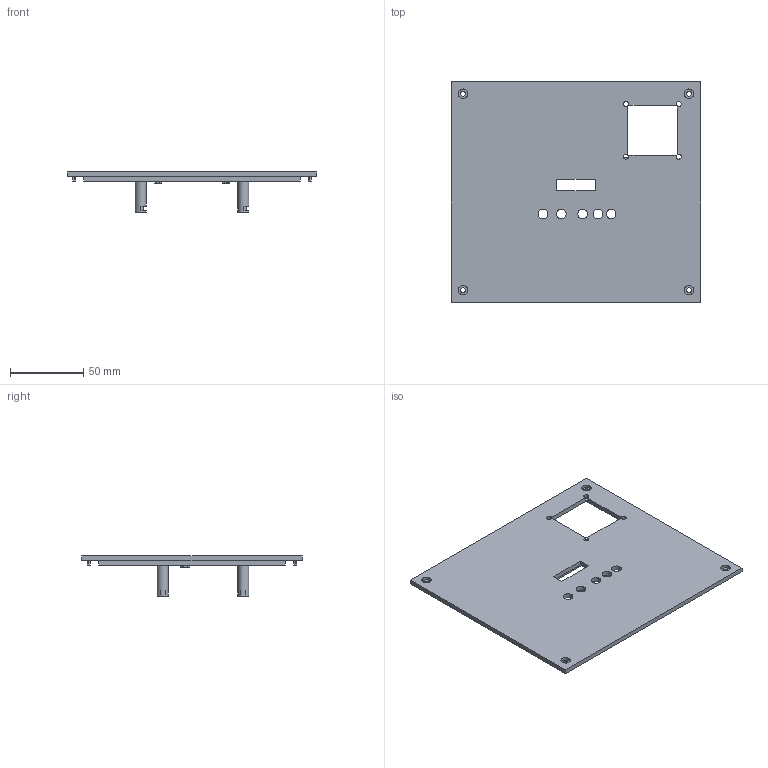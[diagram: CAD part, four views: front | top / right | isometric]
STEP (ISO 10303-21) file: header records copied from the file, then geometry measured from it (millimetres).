
FILE_DESCRIPTION(('Open CASCADE Model'),'2;1');
FILE_NAME('Open CASCADE Shape Model','2026-11-19T15:07:55',('Author'),( 'Open CASCADE'),'Open CASCADE STEP processor 8.0','Open CASCADE 8.0' ,'Unknown');
FILE_SCHEMA(('AUTOMOTIVE_DESIGN { 1 0 10303 214 1 1 1 1 }'));
Length unit declared in the file: millimetre
Products named in the file (1): Open CASCADE STEP translator 8.0 11
Bounding box: 170 x 150 x 27.3 mm (x, y, z)
Volume: 83822.4 mm3; surface area: 58703.9 mm2
Topology: 1 solids, 1 shells, 225 faces, 648 edges, 432 vertices
Faces by surface type: plane 172, cylinder 53
Full cylindrical faces by diameter (mm): 2.8 x2, 3.4 x12, 6.4 x4, 6.5 x5, 7.4 x4
Entity records: 15890 total; most frequent: CARTESIAN_POINT 2602, DIRECTION 2558, LINE 1620, VECTOR 1620, ORIENTED_EDGE 1296, PCURVE 1296, DEFINITIONAL_REPRESENTATION 1296, EDGE_CURVE 648
